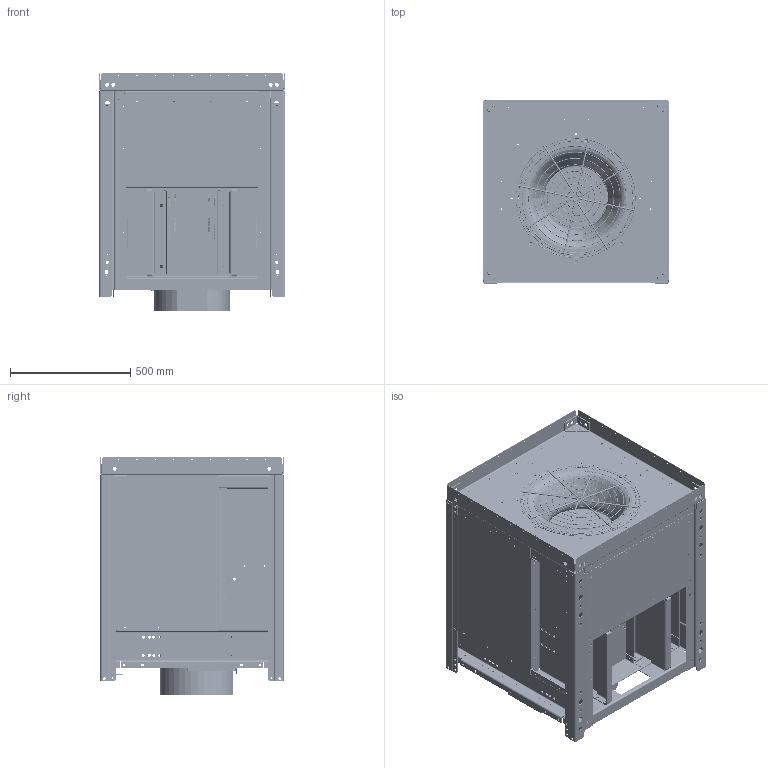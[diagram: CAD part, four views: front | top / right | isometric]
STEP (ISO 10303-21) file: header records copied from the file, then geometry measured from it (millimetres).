
FILE_DESCRIPTION((''),'2;1');
FILE_NAME('058683_182_100_256T_ASM_ASM','2016-08-03T',('cthatcc'),(''),'CREO PARAMETRIC BY PTC INC, 2016050','CREO PARAMETRIC BY PTC INC, 2016050','');
FILE_SCHEMA(('CONFIG_CONTROL_DESIGN'));
Length unit declared in the file: inch
Products named in the file (72): 0575820004_1_1; 0575830004_1_1; 0575740008_1_1; 0575880005_1_1; 0578340001_1_1; 057834_MIR_1_1; 0575820009_MIR_1_1; 0575990004_MIR_ASM_2_ASM_1_ASM; 0575820009_1_1; 0575990004_ASM_2_ASM_1_ASM; 0575680006_1; NEMA_256T_TEFC_1_1; 0575690003_1_1; 0576650053_1_1; 0579720001_1_1; 0579720001_B_1_1; 0575650007_5_1; 0575760003_8_1; 0575880013_1_1; 057581_1_1; 0575660006_1_1; 0575700008_1_1; 0575790006_1_1; 0575890005_ASM_1_ASM_1_ASM; 0575660007_1_1; 0575700009_1_1; 0575790007_1_1; 0575890006_ASM_1_ASM_1_ASM; 058559_1_1; INLETGUARD_165_1_1; RING_Z_1_1; RING_AB_1_1; ROD_165_1_1; 0576560005_ASM_1_ASM_1_ASM; 0585510007_MIR_1_1; 0585510007_1_1; 0585510013_1_1; 0585510013_MIR_1_1; 0585560001_1_1; 0575700010_1_1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
Assembly tree (173 placements, depth 5):
  058683_182_100_256T_ASM_ASM
    058683_182_100_256T_ASM_ASM_1_ASM
      182_100_256T_STD_ISF_ASM_20_ASM_ASM
        0575990004_MIR_ASM_2_ASM_1_ASM
          0575820004_1_1
          0575830004_1_1
          0575740008_1_1
          0575880005_1_1  x2
          0578340001_1_1
          057834_MIR_1_1
          0575820009_MIR_1_1
        0575990004_ASM_2_ASM_1_ASM
          0575820009_1_1
          0575820004_1_1
          0575830004_1_1
          0575740008_1_1
          0575880005_1_1  x2
          0578340001_1_1
          057834_MIR_1_1
        0575680006_1
        NEMA_256T_TEFC_1_1
        0575690003_1_1
        0576650053_1_1
        0579720001_1_1
        0579720001_B_1_1
        0575650007_5_1
        0575760003_8_1
        0575880013_1_1  x3
        057581_1_1  x4
        0575890005_ASM_1_ASM_1_ASM
          0575660006_1_1
          0575700008_1_1
          0575790006_1_1
        0575890006_ASM_1_ASM_1_ASM
          0575660007_1_1
          0575700009_1_1
          0575790007_1_1
        058559_1_1
        0576560005_ASM_1_ASM_1_ASM
          INLETGUARD_165_1_1
          RING_Z_1_1
          RING_AB_1_1
          ROD_165_1_1  x4
        0585510007_MIR_1_1
        0585510007_1_1
        0585510013_1_1
        0585510013_MIR_1_1
        0585570001_ASM_4_ASM_1_ASM
          0585560001_1_1
          0575700010_1_1
          0579710001_1_1
        0585580001_ASM_4_ASM_1_ASM
          0585560001_MIR_1_1
          0575700010_1_1
          0579710001_MIR_1_1
        0586070001_1_1
        0586070001_MIR_9_1
        WHEEL_DUMMY_182-100_1_1
        058947_1_1  x3
        HUCK_FASTENER_PROTRUDI_25_8-10_  x8
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Bounding box: 772.81 x 762 x 993.8 mm (x, y, z)
Volume: 139575643.3 mm3; surface area: 18866252.9 mm2
Topology: 163 solids, 163 shells, 5083 faces, 12819 edges, 8078 vertices
Faces by surface type: cylinder 2886, plane 1921, torus 156, bspline 92, cone 28
Entity records: 131304 total; most frequent: CARTESIAN_POINT 35314, DIRECTION 21217, ORIENTED_EDGE 18430, EDGE_CURVE 9215, AXIS2_PLACEMENT_3D 8250, VERTEX_POINT 5748, EDGE_LOOP 5129, VECTOR 4717
